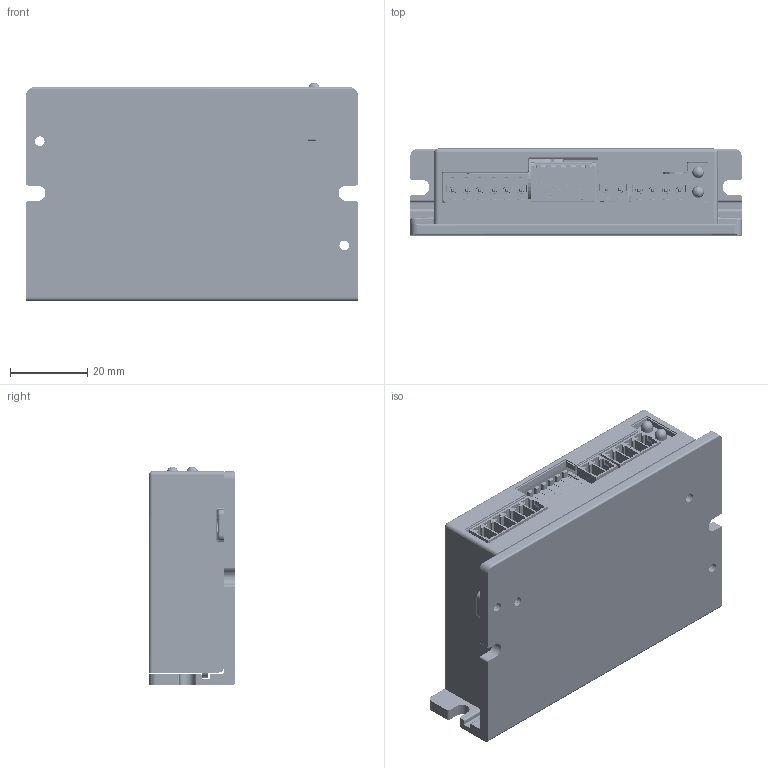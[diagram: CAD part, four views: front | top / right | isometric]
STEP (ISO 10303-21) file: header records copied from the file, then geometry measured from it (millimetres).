
FILE_DESCRIPTION((''),'2;1');
FILE_NAME('0000-DM1-422C-DRIVER-250408_ASM_ASM','2025-05-26T14:47:25',('Administrator'),(''),'CREO PARAMETRIC BY PTC INC, 2024401','CREO PARAMETRIC BY PTC INC, 2024401','');
FILE_SCHEMA(('AUTOMOTIVE_DESIGN { 1 0 10303 214 1 1 1 1 }'));
Products named in the file (601): DM1-422C_DB_3; DM1-422C_DB_ASM_1_ASM; OPEN_CASCADE_STEP_TRANSLAT-1002; BOARD_ASM_1_ASM; C0402_1_1; C0402_2_1; C0402_3_1; C0402_ASM_1_ASM; C42_ASM_1_ASM; C41_ASM_1_ASM; C35_ASM_1_ASM; C20_ASM_1_ASM; C55_ASM_1_ASM; C16_ASM_1_ASM; C15_ASM_1_ASM; C4_ASM_1_ASM; R1206_1_1; R1206_2_1; R1206_3_1; R1206_4_1; R1206_ASM_1_ASM; R18_ASM_1_ASM; R15_ASM_1_ASM; LED-TH_4P-L11_6-W4_5-P2_54_GR_1; LED1_ASM_1_ASM; 15EDGRC-3_5-02P-14-00A_H__1; CN2_ASM_1_ASM; CN3_ASM_1_ASM; R0402_1_1; R0402_2_1; R0402_3_1; R0402_4_1; R0402_ASM_1_ASM; R83_ASM_1_ASM; SOT-23-3_1_1; SOT-23-3_2_1; SOT-23-3_3_1; SOT-23-3_4_1; SOT-23-3_5_1; SOT-23-3_ASM_1_ASM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
Assembly tree (807 placements, depth 9):
  0000-DM1-422C-DRIVER-250408_ASM_ASM
    DM1-422C_DB_ASM_1_ASM
      DM1-422C_DB_3
    DM1-422C-PCBA_V0_2-250327_ASM_3_ASM
      BOARD_ASM_1_ASM
        OPEN_CASCADE_STEP_TRANSLAT-1002
      C42_ASM_1_ASM
        C0402_ASM_1_ASM
          C0402_1_1
          C0402_2_1
          C0402_3_1
      C41_ASM_1_ASM
        C0402_ASM_1_ASM
          C0402_1_1
          C0402_2_1
          C0402_3_1
      C35_ASM_1_ASM
        C0402_ASM_1_ASM
          C0402_1_1
          C0402_2_1
          C0402_3_1
      C20_ASM_1_ASM
        C0402_ASM_1_ASM
          C0402_1_1
          C0402_2_1
          C0402_3_1
      C55_ASM_1_ASM
        C0402_ASM_1_ASM
          C0402_1_1
          C0402_2_1
          C0402_3_1
      C16_ASM_1_ASM
        C0402_ASM_1_ASM
          C0402_1_1
          C0402_2_1
          C0402_3_1
      C15_ASM_1_ASM
        C0402_ASM_1_ASM
          C0402_1_1
          C0402_2_1
          C0402_3_1
      C4_ASM_1_ASM
        C0402_ASM_1_ASM
          C0402_1_1
          C0402_2_1
          C0402_3_1
      R18_ASM_1_ASM
        R1206_ASM_1_ASM
          R1206_1_1
          R1206_2_1
          R1206_3_1
          R1206_4_1
      R15_ASM_1_ASM
        R1206_ASM_1_ASM
          R1206_1_1
          R1206_2_1
          R1206_3_1
          R1206_4_1
      LED1_ASM_1_ASM
        LED-TH_4P-L11_6-W4_5-P2_54_GR_1
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Bounding box: 86 x 22.5 x 56.66 mm (x, y, z)
Volume: 39407 mm3; surface area: 47907 mm2
Topology: 881 solids, 1206 shells, 23740 faces, 60243 edges, 38472 vertices
Faces by surface type: plane 13977, cylinder 5808, sphere 1384, extrusion 1280, torus 1145, bspline 82, cone 48, revolution 16
Entity records: 456789 total; most frequent: CARTESIAN_POINT 96323, DIRECTION 55647, ORIENTED_EDGE 52639, EDGE_CURVE 27397, AXIS2_PLACEMENT_3D 18833, VECTOR 17965, VERTEX_POINT 17757, LINE 17225
